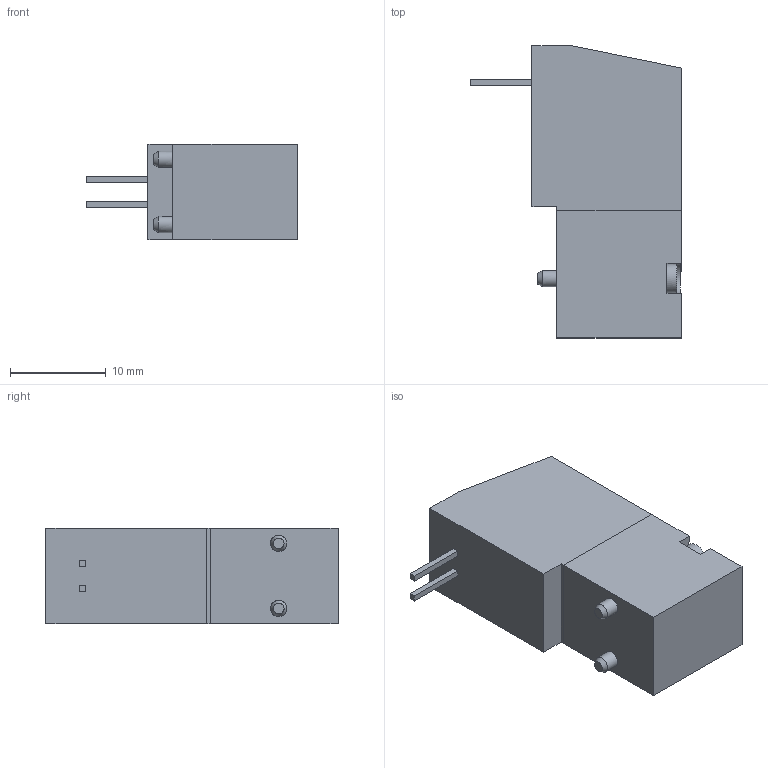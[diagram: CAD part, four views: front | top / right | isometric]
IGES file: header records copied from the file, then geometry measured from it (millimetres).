
Global section: file name: P377_40_C; native system: Autodesk Inventor 2014; preprocessor: unknown; author: A. Manieri; organization: Pneumax S.p.A.; date: 20161005.154354; units: millimetre
Bounding box: 22 x 30.5 x 10 mm (x, y, z)
Volume: 4093.1 mm3; surface area: 1909.5 mm2
Topology: 1 solids, 1 shells, 82 faces, 207 edges, 136 vertices
Faces by surface type: bspline 82
